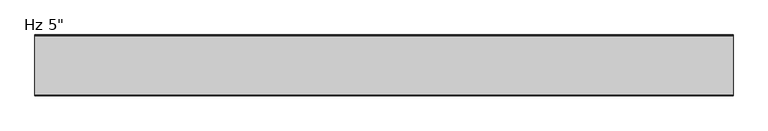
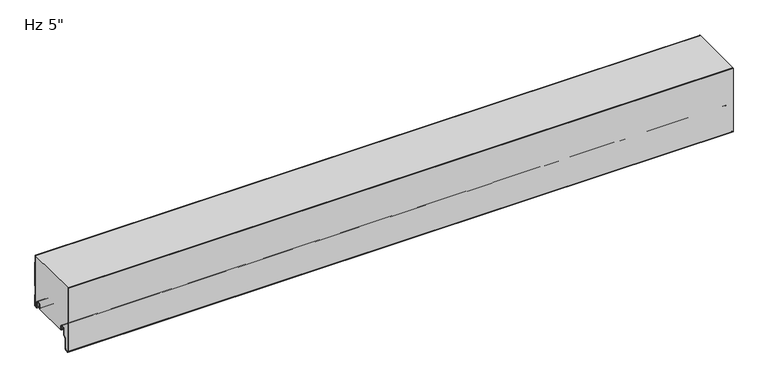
"""IFC4 building model written with IfcOpenShell, lengths in millimetres: plate geometry."""

from ifc_helpers import new_model, si_unit, point, frame, frame_2d, origin, place, context, project, spatial, polyline, circle_curve, trimmed, segment, composite_curve, outline, extrude, source, transform, mapped, element, save
from ifc_brep_helpers import plane_surface, cylinder_surface, revolved_surface, advanced_brep


def plate_448bf853(model_context):
    return source(origin(), model_context, "Body", "SolidModel", [
        advanced_brep(
        [(-730.0, -17.0015159, 2.0313088), (-730.0, -18.0015191, 1.0313116), (-730.0, -19.0015105, 2.0313088), (-730.0, -19.0015105, 6.0315125), (-730.0, -18.0015159, 6.0315125), (-730.0, -18.0015159, 8.7237223), (-730.0, -14.7015202, 12.023718), (-730.0, -10.301529, 12.023718), (-730.0, -7.0015335, 8.7237225), (-730.0, -7.0015335, -1.6962564), (-730.0, -5.2315393, -3.4662506), (-730.0, -0.9999916, -3.4662506), (-730.0, -0.9999916, 21.034026), (-730.0, -2.2002307, 22.4196686), (-730.0, -2.2002307, 41.7948349), (-730.0, -1.0, 43.1804679), (-730.0, -1.0, 97.2338833), (-730.0, -2.2002307, 98.6195162), (-730.0, -2.2002307, 114.0), (-730.0, -1.2002307, 114.0), (-730.0, -1.2002307, 98.9923967), (-730.0, -0.3417885, 98.001349), (-730.0, 0.0, 97.0847321), (-730.0, 0.0, 43.329619), (-730.0, -0.3417885, 42.4130021), (-730.0, -1.2002307, 41.4219545), (-730.0, -1.2002307, 22.7925491), (-730.0, -0.3417885, 21.8015014), (-730.0, 0.0, 20.8847931), (-730.0, 8.4e-06, -3.0662545), (-730.0, -1.3999878, -4.4662506), (-730.0, -5.2315393, -4.4662506), (-730.0, -8.0015335, -1.6962564), (-730.0, -8.0015335, 8.7237225), (-730.0, -10.301529, 11.023718), (-730.0, -14.7015202, 11.023718), (-730.0, -17.0015159, 8.7237223), (730.0, -17.0015159, 2.0313088), (730.0, -17.0015159, 8.7237223), (730.0, -14.7015202, 11.023718), (730.0, -10.301529, 11.023718), (730.0, -8.0015335, 8.7237225), (730.0, -8.0015335, -1.6962564), (730.0, -5.2315393, -4.4662506), (730.0, -1.3999878, -4.4662506), (730.0, 8.4e-06, -3.0662545), (730.0, 8.4e-06, 20.8848845), (730.0, -0.3417885, 21.8015014), (730.0, -1.2002307, 22.7925491), (730.0, -1.2002307, 41.4219545), (730.0, -0.3417885, 42.4130021), (730.0, 0.0, 43.329619), (730.0, 0.0, 97.0847321), (730.0, -0.3417885, 98.001349), (730.0, -1.2002307, 98.9923967), (730.0, -1.2002307, 114.0), (730.0, -2.2002307, 114.0), (730.0, -2.2002307, 98.6195162), (730.0, -1.0, 97.2338833), (730.0, -1.0, 43.1804679), (730.0, -2.2002307, 41.7948349), (730.0, -2.2002307, 22.4196686), (730.0, -0.9999916, 21.034026), (730.0, -0.9999916, -3.4662506), (730.0, -5.2315393, -3.4662506), (730.0, -7.0015335, -1.6962564), (730.0, -7.0015335, 8.7237225), (730.0, -10.301529, 12.023718), (730.0, -14.7015202, 12.023718), (730.0, -18.0015159, 8.7237223), (730.0, -18.0015159, 6.0315125), (730.0, -19.0015105, 6.0315125), (730.0, -19.0015105, 2.0313088), (730.0, -18.0015192, 1.0313116)],
        [
            (0, 1, circle_curve(frame((-730.0, -18.0015132, 2.0313088), z_axis=(-1.0, 0.0, 0.0), x_axis=(0.0, 0.0, 1.0)), 0.9999973)),
            (1, 2, circle_curve(frame((-730.0, -18.0015133, 2.0313088), z_axis=(-1.0, 0.0, 0.0), x_axis=(0.0, 0.0, 1.0)), 0.9999972)),
            (2, 3),
            (3, 4),
            (4, 5),
            (5, 6, circle_curve(frame((-730.0, -14.7015202, 8.7237223), z_axis=(-1.0, 0.0, 0.0), x_axis=(0.0, 0.0, 1.0)), 3.2999957)),
            (6, 7),
            (7, 8, circle_curve(frame((-730.0, -10.301529, 8.7237225), z_axis=(-1.0, 0.0, 0.0), x_axis=(0.0, 0.0, 1.0)), 3.2999955)),
            (8, 9),
            (9, 10, circle_curve(frame((-730.0, -5.2315393, -1.6962564), z_axis=(1.0, 0.0, 0.0), x_axis=(0.0, 0.0, 1.0)), 1.7699942)),
            (10, 11),
            (11, 12),
            (12, 13),
            (13, 14),
            (14, 15),
            (15, 16),
            (16, 17),
            (17, 18),
            (18, 19),
            (19, 20),
            (20, 21),
            (21, 22, circle_curve(frame((-730.0, -1.3999972, 97.0847321), z_axis=(-1.0, 0.0, 0.0), x_axis=(0.0, 0.0, 1.0)), 1.3999972)),
            (22, 23),
            (23, 24, circle_curve(frame((-730.0, -1.3999972, 43.329619), z_axis=(-1.0, 0.0, 0.0), x_axis=(0.0, 0.0, 1.0)), 1.3999972)),
            (24, 25),
            (25, 26),
            (26, 27),
            (27, 28, circle_curve(frame((-730.0, -1.3999972, 20.8848845), z_axis=(-1.0, 0.0, 0.0), x_axis=(0.0, 0.0, 1.0)), 1.3999972)),
            (28, 29),
            (29, 30, circle_curve(frame((-730.0, -1.3999878, -3.0662545), z_axis=(-1.0, 0.0, 0.0), x_axis=(0.0, 0.0, 1.0)), 1.3999962)),
            (30, 31),
            (31, 32, circle_curve(frame((-730.0, -5.2315393, -1.6962564), z_axis=(-1.0, 0.0, 0.0), x_axis=(0.0, 0.0, 1.0)), 2.7699942)),
            (32, 33),
            (33, 34, circle_curve(frame((-730.0, -10.301529, 8.7237225), z_axis=(1.0, 0.0, 0.0), x_axis=(0.0, 0.0, 1.0)), 2.2999955)),
            (34, 35),
            (35, 36, circle_curve(frame((-730.0, -14.7015202, 8.7237223), z_axis=(1.0, 0.0, 0.0), x_axis=(0.0, 0.0, 1.0)), 2.2999957)),
            (36, 0),
            (37, 38),
            (38, 39, circle_curve(frame((730.0, -14.7015202, 8.7237223), z_axis=(-1.0, 0.0, 0.0), x_axis=(0.0, 0.0, 1.0)), 2.2999957)),
            (39, 40),
            (40, 41, circle_curve(frame((730.0, -10.301529, 8.7237225), z_axis=(-1.0, 0.0, 0.0), x_axis=(0.0, 0.0, 1.0)), 2.2999955)),
            (41, 42),
            (42, 43, circle_curve(frame((730.0, -5.2315393, -1.6962564), z_axis=(1.0, 0.0, 0.0), x_axis=(0.0, 0.0, 1.0)), 2.7699942)),
            (43, 44),
            (44, 45, circle_curve(frame((730.0, -1.3999878, -3.0662545), z_axis=(1.0, 0.0, 0.0), x_axis=(0.0, 0.0, 1.0)), 1.3999962)),
            (45, 46),
            (46, 47, circle_curve(frame((730.0, -1.3999972, 20.8848845), z_axis=(1.0, 0.0, 0.0), x_axis=(0.0, 0.0, 1.0)), 1.3999972)),
            (47, 48),
            (48, 49),
            (49, 50),
            (50, 51, circle_curve(frame((730.0, -1.3999972, 43.329619), z_axis=(1.0, 0.0, 0.0), x_axis=(0.0, 0.0, 1.0)), 1.3999972)),
            (51, 52),
            (52, 53, circle_curve(frame((730.0, -1.3999972, 97.0847321), z_axis=(1.0, 0.0, 0.0), x_axis=(0.0, 0.0, 1.0)), 1.3999972)),
            (53, 54),
            (54, 55),
            (55, 56),
            (56, 57),
            (57, 58),
            (58, 59),
            (59, 60),
            (60, 61),
            (61, 62),
            (62, 63),
            (63, 64),
            (64, 65, circle_curve(frame((730.0, -5.2315393, -1.6962564), z_axis=(-1.0, 0.0, 0.0), x_axis=(0.0, 0.0, 1.0)), 1.7699942)),
            (65, 66),
            (66, 67, circle_curve(frame((730.0, -10.301529, 8.7237225), z_axis=(1.0, 0.0, 0.0), x_axis=(0.0, 0.0, 1.0)), 3.2999955)),
            (67, 68),
            (68, 69, circle_curve(frame((730.0, -14.7015202, 8.7237223), z_axis=(1.0, 0.0, 0.0), x_axis=(0.0, 0.0, 1.0)), 3.2999957)),
            (69, 70),
            (70, 71),
            (71, 72),
            (72, 73, circle_curve(frame((730.0, -18.0015133, 2.0313088), z_axis=(1.0, 0.0, 0.0), x_axis=(0.0, 0.0, 1.0)), 0.9999972)),
            (73, 37, circle_curve(frame((730.0, -18.0015132, 2.0313088), z_axis=(1.0, 0.0, 0.0), x_axis=(0.0, 0.0, 1.0)), 0.9999973)),
            (18, 56),
            (55, 19),
            (36, 38),
            (37, 0),
            (35, 39),
            (34, 40),
            (33, 41),
            (32, 42),
            (31, 43),
            (30, 44),
            (29, 45),
            (28, 46),
            (27, 47),
            (26, 48),
            (25, 49),
            (24, 50),
            (23, 51),
            (22, 52),
            (21, 53),
            (20, 54),
            (17, 57),
            (16, 58),
            (15, 59),
            (14, 60),
            (13, 61),
            (12, 62),
            (11, 63),
            (10, 64),
            (9, 65),
            (8, 66),
            (7, 67),
            (6, 68),
            (5, 69),
            (4, 70),
            (3, 71),
            (2, 72),
            (1, 73),
        ],
        [
            plane_surface(frame((-730.0, 0.0, 381.0), z_axis=(-1.0, 0.0, 0.0), x_axis=(0.0, 1.0, 0.0))),
            plane_surface(frame((730.0, 0.0, 381.0), z_axis=(1.0, 0.0, 0.0), x_axis=(0.0, 1.0, 0.0))),
            plane_surface(frame((730.0, 10.0, 114.0), z_axis=(0.0, 0.0, 1.0), x_axis=(-1.0, 0.0, 0.0))),
            plane_surface(frame((-730.0, -17.0015159, 2.0313088), z_axis=(0.0, 1.0, 0.0), x_axis=(1.0, 0.0, 0.0))),
            revolved_surface(polyline([(730.0, -14.7015202, 11.023718), (-730.0, -14.7015202, 11.023718)]), (-730.0, -14.7015202, 8.7237223), (1.0, 0.0, 0.0)),
            plane_surface(frame((-730.0, -14.7015202, 11.023718), z_axis=(0.0, 0.0, -1.0), x_axis=(1.0, 0.0, 0.0))),
            revolved_surface(polyline([(730.0, -10.301529, 11.023717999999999), (-730.0, -10.301529, 11.023717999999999)]), (-730.0, -10.301529, 8.7237225), (1.0, 0.0, 0.0)),
            plane_surface(frame((-730.0, -8.0015335, 8.7237225), z_axis=(0.0, -1.0, 0.0), x_axis=(1.0, 0.0, 0.0))),
            cylinder_surface(frame((-730.0, -5.2315393, -1.6962564), z_axis=(-1.0, 0.0, 0.0), x_axis=(0.0, 0.0, 1.0)), 2.7699942),
            plane_surface(frame((-730.0, -5.2315393, -4.4662506), z_axis=(0.0, 0.0, -1.0), x_axis=(1.0, 0.0, 0.0))),
            cylinder_surface(frame((-730.0, -1.3999878, -3.0662545), z_axis=(-1.0, 0.0, 0.0), x_axis=(0.0, 0.0, 1.0)), 1.3999962),
            plane_surface(frame((-730.0, 8.4e-06, -3.0662545), z_axis=(0.0, 1.0, 0.0), x_axis=(1.0, 0.0, 0.0))),
            cylinder_surface(frame((-730.0, -1.3999972, 20.8848845), z_axis=(-1.0, 0.0, 0.0), x_axis=(0.0, 0.0, 1.0)), 1.3999972),
            plane_surface(frame((-730.0, -0.3417885, 21.8015014), z_axis=(0.0, 0.755864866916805, 0.6547276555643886), x_axis=(1.0, 0.0, 0.0))),
            plane_surface(frame((-730.0, -1.2002307, 32.1072518), z_axis=(0.0, 1.0, 0.0), x_axis=(1.0, 0.0, 0.0))),
            plane_surface(frame((-730.0, -1.2002307, 41.4219545), z_axis=(0.0, 0.755864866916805, -0.6547276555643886), x_axis=(1.0, 0.0, 0.0))),
            cylinder_surface(frame((-730.0, -1.3999972, 43.329619), z_axis=(-1.0, 0.0, 0.0), x_axis=(0.0, 0.0, 1.0)), 1.3999972),
            plane_surface(frame((-730.0, 0.0, 43.329619), z_axis=(0.0, 1.0, 0.0), x_axis=(1.0, 0.0, 0.0))),
            cylinder_surface(frame((-730.0, -1.3999972, 97.0847321), z_axis=(-1.0, 0.0, 0.0), x_axis=(0.0, 0.0, 1.0)), 1.3999972),
            plane_surface(frame((-730.0, -0.3417885, 98.001349), z_axis=(0.0, 0.755864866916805, 0.6547276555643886), x_axis=(1.0, 0.0, 0.0))),
            plane_surface(frame((-730.0, -1.2002307, 108.3070994), z_axis=(0.0, 1.0, 0.0), x_axis=(1.0, 0.0, 0.0))),
            plane_surface(frame((-730.0, -2.2002307, 117.9946825), z_axis=(0.0, -1.0, 0.0), x_axis=(1.0, 0.0, 0.0))),
            plane_surface(frame((-730.0, -2.2002307, 98.6195162), z_axis=(0.0, -0.755864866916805, -0.6547276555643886), x_axis=(1.0, 0.0, 0.0))),
            plane_surface(frame((-730.0, -1.0, 97.2338833), z_axis=(0.0, -1.0, 0.0), x_axis=(1.0, 0.0, 0.0))),
            plane_surface(frame((-730.0, -1.0, 43.1804679), z_axis=(0.0, -0.755864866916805, 0.6547276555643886), x_axis=(1.0, 0.0, 0.0))),
            plane_surface(frame((-730.0, -2.2002307, 41.7948349), z_axis=(0.0, -1.0, 0.0), x_axis=(1.0, 0.0, 0.0))),
            plane_surface(frame((-730.0, -2.2002307, 22.4196686), z_axis=(0.0, -0.755864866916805, -0.6547276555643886), x_axis=(1.0, 0.0, 0.0))),
            plane_surface(frame((-730.0, -0.9999916, 21.034026), z_axis=(0.0, -1.0, 0.0), x_axis=(1.0, 0.0, 0.0))),
            plane_surface(frame((-730.0, -0.9999916, -3.4662506), z_axis=(0.0, 0.0, 1.0), x_axis=(1.0, 0.0, 0.0))),
            revolved_surface(polyline([(730.0, -5.2315393, 0.07373779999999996), (-730.0, -5.2315393, 0.07373779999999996)]), (-730.0, -5.2315393, -1.6962564), (1.0, 0.0, 0.0)),
            plane_surface(frame((-730.0, -7.0015335, -1.6962564), z_axis=(0.0, 1.0, 0.0), x_axis=(1.0, 0.0, 0.0))),
            cylinder_surface(frame((-730.0, -10.301529, 8.7237225), z_axis=(-1.0, 0.0, 0.0), x_axis=(0.0, 0.0, 1.0)), 3.2999955),
            plane_surface(frame((-730.0, -10.301529, 12.023718), z_axis=(0.0, 0.0, 1.0), x_axis=(1.0, 0.0, 0.0))),
            cylinder_surface(frame((-730.0, -14.7015202, 8.7237223), z_axis=(-1.0, 0.0, 0.0), x_axis=(0.0, 0.0, 1.0)), 3.2999957),
            plane_surface(frame((-730.0, -18.0015159, 8.7237223), z_axis=(0.0, -1.0, 0.0), x_axis=(1.0, 0.0, 0.0))),
            plane_surface(frame((-730.0, -18.0015159, 6.0315125), z_axis=(0.0, 0.0, 1.0), x_axis=(1.0, 0.0, 0.0))),
            plane_surface(frame((-730.0, -19.0015105, 6.0315125), z_axis=(0.0, -1.0, 0.0), x_axis=(1.0, 0.0, 0.0))),
            cylinder_surface(frame((-730.0, -18.0015133, 2.0313088), z_axis=(-1.0, 0.0, 0.0), x_axis=(0.0, 0.0, 1.0)), 0.9999972),
            cylinder_surface(frame((-730.0, -18.0015132, 2.0313088), z_axis=(-1.0, 0.0, 0.0), x_axis=(0.0, 0.0, 1.0)), 0.9999973),
        ],
        [
            (0, [[1, 2, 3, 4, 5, 6, 7, 8, 9, 10, 11, 12, 13, 14, 15, 16, 17, 18, 19, 20, 21, 22, 23, 24, 25, 26, 27, 28, 29, 30, 31, 32, 33, 34, 35, 36, 37]]),
            (1, [[38, 39, 40, 41, 42, 43, 44, 45, 46, 47, 48, 49, 50, 51, 52, 53, 54, 55, 56, 57, 58, 59, 60, 61, 62, 63, 64, 65, 66, 67, 68, 69, 70, 71, 72, 73, 74]]),
            (2, [[75, -56, 76, -19]]),
            (3, [[77, -38, 78, -37]]),
            (4, [[79, -39, -77, -36]]),
            (5, [[80, -40, -79, -35]]),
            (6, [[81, -41, -80, -34]]),
            (7, [[82, -42, -81, -33]]),
            (8, [[83, -43, -82, -32]]),
            (9, [[84, -44, -83, -31]]),
            (10, [[85, -45, -84, -30]]),
            (11, [[86, -46, -85, -29]]),
            (12, [[87, -47, -86, -28]]),
            (13, [[88, -48, -87, -27]]),
            (14, [[89, -49, -88, -26]]),
            (15, [[90, -50, -89, -25]]),
            (16, [[91, -51, -90, -24]]),
            (17, [[92, -52, -91, -23]]),
            (18, [[93, -53, -92, -22]]),
            (19, [[94, -54, -93, -21]]),
            (20, [[-20, -76, -55, -94]]),
            (21, [[-57, -75, -18, 95]]),
            (22, [[96, -58, -95, -17]]),
            (23, [[97, -59, -96, -16]]),
            (24, [[98, -60, -97, -15]]),
            (25, [[99, -61, -98, -14]]),
            (26, [[100, -62, -99, -13]]),
            (27, [[101, -63, -100, -12]]),
            (28, [[102, -64, -101, -11]]),
            (29, [[103, -65, -102, -10]]),
            (30, [[104, -66, -103, -9]]),
            (31, [[105, -67, -104, -8]]),
            (32, [[106, -68, -105, -7]]),
            (33, [[107, -69, -106, -6]]),
            (34, [[108, -70, -107, -5]]),
            (35, [[109, -71, -108, -4]]),
            (36, [[110, -72, -109, -3]]),
            (37, [[111, -73, -110, -2]]),
            (38, [[-78, -74, -111, -1]]),
        ],
    ),
        extrude(outline(composite_curve([segment(trimmed(circle_curve(frame_2d((-123.4296795, -32.4521105)), 3.5702393), [point((-123.1184091, -36.0087549))], [point((-126.9999188, -32.4521083))], False, "CARTESIAN"), True, "CONTINUOUS"), segment(polyline([(-126.9999188, -32.4521083), (-126.9998251, 114.0), (-125.9993606, 114.0), (-125.9993606, -32.509446)]), True, "CONTINUOUS"), segment(trimmed(circle_curve(frame_2d((-123.4297607, -32.4521176)), 2.5702393), [point((-125.9993606, -32.509446))], [point((-123.2056751, -35.0125699))], True, "CARTESIAN"), True, "CONTINUOUS"), segment(polyline([(-123.2056751, -35.0125699), (-118.2238542, -34.5765709)]), True, "CONTINUOUS"), segment(trimmed(circle_curve(frame_2d((-118.7052448, -31.9198392)), 2.6999926), [point((-118.2238542, -34.5765709))], [point((-116.0052522, -31.9198392))], True, "CARTESIAN"), True, "CONTINUOUS"), segment(polyline([(-116.0052522, -31.9198392), (-116.0052522, -9.8247096), (-110.5031811, -4.3226385)]), True, "CONTINUOUS"), segment(trimmed(circle_curve(frame_2d((-111.7052588, -3.1205608)), 1.6999946), [point((-110.5031811, -4.3226385))], [point((-110.0052642, -3.1205608))], True, "CARTESIAN"), True, "CONTINUOUS"), segment(polyline([(-110.0052642, -3.1205608), (-110.0052642, 8.6903283)]), True, "CONTINUOUS"), segment(trimmed(circle_curve(frame_2d((-106.6552689, 8.6903283)), 3.3499953), [point((-110.0052642, 8.6903283))], [point((-106.6552689, 12.0403236))], False, "CARTESIAN"), True, "CONTINUOUS"), segment(polyline([(-106.6552689, 12.0403236), (-102.2552777, 12.0403236)]), True, "CONTINUOUS"), segment(trimmed(circle_curve(frame_2d((-102.2552777, 8.6903283)), 3.3499953), [point((-102.2552777, 12.0403236))], [point((-98.9052824, 8.6903283))], False, "CARTESIAN"), True, "CONTINUOUS"), segment(polyline([(-98.9052824, 8.6903283), (-98.9052824, 5.9912173), (-97.5068035, 5.9912173), (-97.5068035, 2.2328239)]), True, "CONTINUOUS"), segment(trimmed(circle_curve(frame_2d((-98.7068002, 2.2313092)), 1.1999976), [point((-97.5068035, 2.2328239))], [point((-98.6762782, 1.0316999))], False, "CARTESIAN"), True, "CONTINUOUS"), segment(trimmed(circle_curve(frame_2d((-98.7068002, 2.2313092)), 1.1999976), [point((-98.6762782, 1.0316999))], [point((-99.9052824, 2.1710221))], False, "CARTESIAN"), True, "CONTINUOUS"), segment(polyline([(-99.9052824, 2.1710221), (-99.9052824, 8.6903283)]), True, "CONTINUOUS"), segment(trimmed(circle_curve(frame_2d((-102.2552777, 8.6903283)), 2.3499953), [point((-99.9052824, 8.6903283))], [point((-102.2552777, 11.0403236))], True, "CARTESIAN"), True, "CONTINUOUS"), segment(polyline([(-102.2552777, 11.0403236), (-106.6552689, 11.0403236)]), True, "CONTINUOUS"), segment(trimmed(circle_curve(frame_2d((-106.6552689, 8.6903283)), 2.3499953), [point((-106.6552689, 11.0403236))], [point((-109.0052642, 8.6903283))], True, "CARTESIAN"), True, "CONTINUOUS"), segment(polyline([(-109.0052642, 8.6903283), (-109.0052642, -3.1205608)]), True, "CONTINUOUS"), segment(trimmed(circle_curve(frame_2d((-111.7052588, -3.1205608)), 2.6999946), [point((-109.0052642, -3.1205608))], [point((-109.7960743, -5.0297453))], False, "CARTESIAN"), True, "CONTINUOUS"), segment(polyline([(-109.7960743, -5.0297453), (-114.6244918, -9.8581627)]), True, "CONTINUOUS"), segment(trimmed(circle_curve(frame_2d((-113.7052548, -10.7773997)), 1.2999974), [point((-114.6244918, -9.8581627))], [point((-115.0052522, -10.7773997))], True, "CARTESIAN"), True, "CONTINUOUS"), segment(polyline([(-115.0052522, -10.7773997), (-115.0052522, -31.9198392)]), True, "CONTINUOUS"), segment(trimmed(circle_curve(frame_2d((-118.7052448, -31.9198392)), 3.6999926), [point((-115.0052522, -31.9198392))], [point((-118.0944437, -35.5690675))], False, "CARTESIAN"), True, "CONTINUOUS"), segment(polyline([(-118.0944437, -35.5690675), (-123.1184091, -36.0087549)]), True, "CONTINUOUS")], self_intersect=False)), frame((-730.0, 0.0, 0.0), z_axis=(1.0, 0.0, 0.0), x_axis=(0.0, 1.0, 0.0)), (0.0, 0.0, 1.0), 1460.0),
        advanced_brep(
        [(-730.0, -98.670875, 1.0316999), (-730.0, -97.5014003, 2.2328239), (-730.0, -97.5014003, 5.9912173), (-730.0, -98.8998791, 5.9912173), (-730.0, -98.8998791, 8.6903283), (-730.0, -102.2498744, 12.0403236), (-730.0, -106.6498656, 12.0403236), (-730.0, -109.9998609, 8.6903283), (-730.0, -109.9998609, -3.1205608), (-730.0, -110.4977778, -4.3226385), (-730.0, -115.9998489, -9.8247096), (-730.0, -115.9998489, -31.9198392), (-730.0, -118.2184509, -34.5765709), (-730.0, -123.2002718, -35.0125699), (-730.0, -125.9945967, -32.4521176), (-730.0, -126.0, 114.0), (-730.0, -2.2002307, 114.0), (-730.0, -2.2002307, 98.6195163), (-730.0, -1.0, 97.2338833), (-730.0, -1.0, 43.1804679), (-730.0, -2.2002307, 41.794835), (-730.0, -2.2002307, 22.4196687), (-730.0, -0.9999916, 21.034026), (-730.0, -0.9999916, -3.4662506), (-730.0, -5.2315389, -3.4662506), (-730.0, -7.0015331, -1.6962564), (-730.0, -7.0015331, 8.7237222), (-730.0, -10.301529, 12.023718), (-730.0, -14.7015202, 12.023718), (-730.0, -18.0015159, 8.7237223), (-730.0, -18.0015159, 6.0315125), (-730.0, -19.0015105, 6.0315125), (-730.0, -19.0015105, 2.0313089), (-730.0, -18.0015192, 1.0313117), (-730.0, -19.0328308, 0.0), (-730.0, -97.6391751, 0.0), (730.0, -98.670875, 1.0316999), (730.0, -97.6391751, 0.0), (730.0, -19.0328308, 0.0), (730.0, -18.0015192, 1.0313117), (730.0, -19.0015105, 2.0313089), (730.0, -19.0015105, 6.0315125), (730.0, -18.0015159, 6.0315125), (730.0, -18.0015159, 8.7237223), (730.0, -14.7015202, 12.023718), (730.0, -10.301529, 12.023718), (730.0, -7.0015331, 8.7237222), (730.0, -7.0015331, -1.6962564), (730.0, -5.2315389, -3.4662506), (730.0, -0.9999916, -3.4662506), (730.0, -0.9999916, 21.034026), (730.0, -2.2002307, 22.4196687), (730.0, -2.2002307, 41.794835), (730.0, -1.0, 43.1804679), (730.0, -1.0, 97.2338833), (730.0, -2.2002307, 98.6195163), (730.0, -2.2002307, 114.0), (730.0, -126.0, 114.0), (730.0, -126.0, -32.4521176), (730.0, -123.2002718, -35.0125699), (730.0, -118.2184509, -34.5765709), (730.0, -115.9998489, -31.9198392), (730.0, -115.9998489, -9.8247096), (730.0, -110.4977778, -4.3226385), (730.0, -109.9998609, -3.1205608), (730.0, -109.9998609, 8.6903283), (730.0, -106.6498656, 12.0403236), (730.0, -102.2498744, 12.0403236), (730.0, -98.8998791, 8.6903283), (730.0, -98.8998791, 5.9912173), (730.0, -97.5014003, 5.9912173), (730.0, -97.5014003, 2.2328239)],
        [
            (0, 1, circle_curve(frame((-730.0, -98.7013969, 2.2313092), z_axis=(1.0, 0.0, 0.0), x_axis=(0.0, 0.0, -1.0)), 1.1999976)),
            (1, 2),
            (2, 3),
            (3, 4),
            (4, 5, circle_curve(frame((-730.0, -102.2498744, 8.6903283), z_axis=(1.0, 0.0, 0.0), x_axis=(0.0, 0.0, -1.0)), 3.3499953)),
            (5, 6),
            (6, 7, circle_curve(frame((-730.0, -106.6498656, 8.6903283), z_axis=(1.0, 0.0, 0.0), x_axis=(0.0, 0.0, -1.0)), 3.3499953)),
            (7, 8),
            (8, 9, circle_curve(frame((-730.0, -111.6998555, -3.1205608), z_axis=(-1.0, 0.0, 0.0), x_axis=(0.0, 0.0, -1.0)), 1.6999946)),
            (9, 10),
            (10, 11),
            (11, 12, circle_curve(frame((-730.0, -118.6998415, -31.9198392), z_axis=(-1.0, 0.0, 0.0), x_axis=(0.0, 0.0, -1.0)), 2.6999926)),
            (12, 13),
            (13, 14, circle_curve(frame((-730.0, -123.4243575, -32.4521176), z_axis=(-1.0, 0.0, 0.0), x_axis=(0.0, 0.0, -1.0)), 2.5702393)),
            (14, 15),
            (15, 16),
            (16, 17),
            (17, 18),
            (18, 19),
            (19, 20),
            (20, 21),
            (21, 22),
            (22, 23),
            (23, 24),
            (24, 25, circle_curve(frame((-730.0, -5.2315389, -1.6962564), z_axis=(-1.0, 0.0, 0.0), x_axis=(0.0, 0.0, 1.0)), 1.7699942)),
            (25, 26),
            (26, 27, circle_curve(frame((-730.0, -10.301529, 8.7237222), z_axis=(1.0, 0.0, 0.0), x_axis=(0.0, 0.0, 1.0)), 3.2999959)),
            (27, 28),
            (28, 29, circle_curve(frame((-730.0, -14.7015202, 8.7237223), z_axis=(1.0, 0.0, 0.0), x_axis=(0.0, 0.0, 1.0)), 3.2999957)),
            (29, 30),
            (30, 31),
            (31, 32),
            (32, 33, circle_curve(frame((-730.0, -18.0015133, 2.0313089), z_axis=(1.0, 0.0, 0.0), x_axis=(0.0, 0.0, 1.0)), 0.9999972)),
            (33, 34),
            (34, 35),
            (35, 0),
            (36, 37),
            (37, 38),
            (38, 39),
            (39, 40, circle_curve(frame((730.0, -18.0015133, 2.0313089), z_axis=(-1.0, 0.0, 0.0), x_axis=(0.0, 0.0, 1.0)), 0.9999972)),
            (40, 41),
            (41, 42),
            (42, 43),
            (43, 44, circle_curve(frame((730.0, -14.7015202, 8.7237223), z_axis=(-1.0, 0.0, 0.0), x_axis=(0.0, 0.0, 1.0)), 3.2999957)),
            (44, 45),
            (45, 46, circle_curve(frame((730.0, -10.301529, 8.7237222), z_axis=(-1.0, 0.0, 0.0), x_axis=(0.0, 0.0, 1.0)), 3.2999959)),
            (46, 47),
            (47, 48, circle_curve(frame((730.0, -5.2315389, -1.6962564), z_axis=(1.0, 0.0, 0.0), x_axis=(0.0, 0.0, 1.0)), 1.7699942)),
            (48, 49),
            (49, 50),
            (50, 51),
            (51, 52),
            (52, 53),
            (53, 54),
            (54, 55),
            (55, 56),
            (56, 57),
            (57, 58),
            (58, 59, circle_curve(frame((730.0, -123.4243575, -32.4521176), z_axis=(1.0, 0.0, 0.0), x_axis=(0.0, 0.0, -1.0)), 2.5702393)),
            (59, 60),
            (60, 61, circle_curve(frame((730.0, -118.6998415, -31.9198392), z_axis=(1.0, 0.0, 0.0), x_axis=(0.0, 0.0, -1.0)), 2.6999926)),
            (61, 62),
            (62, 63),
            (63, 64, circle_curve(frame((730.0, -111.6998555, -3.1205608), z_axis=(1.0, 0.0, 0.0), x_axis=(0.0, 0.0, -1.0)), 1.6999946)),
            (64, 65),
            (65, 66, circle_curve(frame((730.0, -106.6498656, 8.6903283), z_axis=(-1.0, 0.0, 0.0), x_axis=(0.0, 0.0, -1.0)), 3.3499953)),
            (66, 67),
            (67, 68, circle_curve(frame((730.0, -102.2498744, 8.6903283), z_axis=(-1.0, 0.0, 0.0), x_axis=(0.0, 0.0, -1.0)), 3.3499953)),
            (68, 69),
            (69, 70),
            (70, 71),
            (71, 36, circle_curve(frame((730.0, -98.7013969, 2.2313092), z_axis=(-1.0, 0.0, 0.0), x_axis=(0.0, 0.0, -1.0)), 1.1999976)),
            (35, 37),
            (36, 0),
            (34, 38),
            (57, 15),
            (14, 58),
            (13, 59),
            (12, 60),
            (11, 61),
            (10, 62),
            (9, 63),
            (8, 64),
            (7, 65),
            (6, 66),
            (5, 67),
            (4, 68),
            (3, 69),
            (2, 70),
            (1, 71),
            (56, 16),
            (33, 39),
            (32, 40),
            (31, 41),
            (30, 42),
            (29, 43),
            (28, 44),
            (27, 45),
            (26, 46),
            (25, 47),
            (24, 48),
            (23, 49),
            (22, 50),
            (21, 51),
            (20, 52),
            (19, 53),
            (18, 54),
            (17, 55),
        ],
        [
            plane_surface(frame((-730.0, -126.0, 381.0), z_axis=(-1.0, 0.0, 0.0), x_axis=(0.0, -1.0, 0.0))),
            plane_surface(frame((730.0, -126.0, 381.0), z_axis=(1.0, 0.0, 0.0), x_axis=(0.0, -1.0, 0.0))),
            plane_surface(frame((-730.0, -98.670875, 1.0316999), z_axis=(0.0, -0.7071067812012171, -0.707106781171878), x_axis=(1.0, 0.0, 0.0))),
            plane_surface(frame((-730.0, -97.6391751, 0.0), z_axis=(0.0, 0.0, -1.0), x_axis=(1.0, 0.0, 0.0))),
            plane_surface(frame((-730.0, -126.0, 713.515622), z_axis=(0.0, -1.0, 0.0), x_axis=(1.0, 0.0, 0.0))),
            cylinder_surface(frame((-730.0, -123.4243575, -32.4521176), z_axis=(-1.0, 0.0, 0.0), x_axis=(0.0, 0.0, -1.0)), 2.5702393),
            plane_surface(frame((-730.0, -123.2002718, -35.0125699), z_axis=(0.0, 0.08718474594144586, -0.9961921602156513), x_axis=(1.0, 0.0, 0.0))),
            cylinder_surface(frame((-730.0, -118.6998415, -31.9198392), z_axis=(-1.0, 0.0, 0.0), x_axis=(0.0, 0.0, -1.0)), 2.6999926),
            plane_surface(frame((-730.0, -115.9998489, -31.9198392), z_axis=(0.0, 1.0, 0.0), x_axis=(1.0, 0.0, 0.0))),
            plane_surface(frame((-730.0, -115.9998489, -9.8247096), z_axis=(0.0, 0.7071067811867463, -0.7071067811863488), x_axis=(1.0, 0.0, 0.0))),
            cylinder_surface(frame((-730.0, -111.6998555, -3.1205608), z_axis=(-1.0, 0.0, 0.0), x_axis=(0.0, 0.0, -1.0)), 1.6999946),
            plane_surface(frame((-730.0, -109.9998609, -3.1205608), z_axis=(0.0, 1.0, 0.0), x_axis=(1.0, 0.0, 0.0))),
            revolved_surface(polyline([(730.0, -106.6498656, 5.340332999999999), (-730.0, -106.6498656, 5.340332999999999)]), (-730.0, -106.6498656, 8.6903283), (1.0, 0.0, 0.0)),
            plane_surface(frame((-730.0, -106.6498656, 12.0403236), z_axis=(0.0, 0.0, -1.0), x_axis=(1.0, 0.0, 0.0))),
            revolved_surface(polyline([(730.0, -102.2498744, 5.340332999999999), (-730.0, -102.2498744, 5.340332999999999)]), (-730.0, -102.2498744, 8.6903283), (1.0, 0.0, 0.0)),
            plane_surface(frame((-730.0, -98.8998791, 8.6903283), z_axis=(0.0, -1.0, 0.0), x_axis=(1.0, 0.0, 0.0))),
            plane_surface(frame((-730.0, -98.8998791, 5.9912173), z_axis=(0.0, 0.0, -1.0), x_axis=(1.0, 0.0, 0.0))),
            plane_surface(frame((-730.0, -97.5014003, 5.9912173), z_axis=(0.0, -1.0, 0.0), x_axis=(1.0, 0.0, 0.0))),
            revolved_surface(polyline([(730.0, -98.7013969, 1.0313116), (-730.0, -98.7013969, 1.0313116)]), (-730.0, -98.7013969, 2.2313092), (1.0, 0.0, 0.0)),
            plane_surface(frame((730.0, 10.0, 114.0), z_axis=(0.0, 0.0, 1.0), x_axis=(-1.0, 0.0, 0.0))),
            plane_surface(frame((-730.0, -19.0328308, 0.0), z_axis=(0.0, 0.7071067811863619, -0.7071067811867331), x_axis=(1.0, 0.0, 0.0))),
            revolved_surface(polyline([(730.0, -18.0015133, 3.0313061), (-730.0, -18.0015133, 3.0313061)]), (-730.0, -18.0015133, 2.0313089), (1.0, 0.0, 0.0)),
            plane_surface(frame((-730.0, -19.0015105, 2.0313089), z_axis=(0.0, 1.0, 0.0), x_axis=(1.0, 0.0, 0.0))),
            plane_surface(frame((-730.0, -19.0015105, 6.0315125), z_axis=(0.0, 0.0, -1.0), x_axis=(1.0, 0.0, 0.0))),
            plane_surface(frame((-730.0, -18.0015159, 6.0315125), z_axis=(0.0, 1.0, 0.0), x_axis=(1.0, 0.0, 0.0))),
            revolved_surface(polyline([(730.0, -14.7015202, 12.023718), (-730.0, -14.7015202, 12.023718)]), (-730.0, -14.7015202, 8.7237223), (1.0, 0.0, 0.0)),
            plane_surface(frame((-730.0, -14.7015202, 12.023718), z_axis=(0.0, 0.0, -1.0), x_axis=(1.0, 0.0, 0.0))),
            revolved_surface(polyline([(730.0, -10.301529, 12.0237181), (-730.0, -10.301529, 12.0237181)]), (-730.0, -10.301529, 8.7237222), (1.0, 0.0, 0.0)),
            plane_surface(frame((-730.0, -7.0015331, 8.7237222), z_axis=(0.0, -1.0, 0.0), x_axis=(1.0, 0.0, 0.0))),
            cylinder_surface(frame((-730.0, -5.2315389, -1.6962564), z_axis=(-1.0, 0.0, 0.0), x_axis=(0.0, 0.0, 1.0)), 1.7699942),
            plane_surface(frame((-730.0, -5.2315389, -3.4662506), z_axis=(0.0, 0.0, -1.0), x_axis=(1.0, 0.0, 0.0))),
            plane_surface(frame((-730.0, -0.9999916, -3.4662506), z_axis=(0.0, 1.0, 0.0), x_axis=(1.0, 0.0, 0.0))),
            plane_surface(frame((-730.0, -0.9999916, 21.034026), z_axis=(0.0, 0.7558648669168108, 0.6547276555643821), x_axis=(1.0, 0.0, 0.0))),
            plane_surface(frame((-730.0, -2.2002307, 22.4196687), z_axis=(0.0, 1.0, 0.0), x_axis=(1.0, 0.0, 0.0))),
            plane_surface(frame((-730.0, -2.2002307, 41.794835), z_axis=(0.0, 0.7558648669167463, -0.6547276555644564), x_axis=(1.0, 0.0, 0.0))),
            plane_surface(frame((-730.0, -1.0, 43.1804679), z_axis=(0.0, 1.0, 0.0), x_axis=(1.0, 0.0, 0.0))),
            plane_surface(frame((-730.0, -1.0, 97.2338833), z_axis=(0.0, 0.7558648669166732, 0.6547276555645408), x_axis=(1.0, 0.0, 0.0))),
            plane_surface(frame((-730.0, -2.2002307, 98.6195163), z_axis=(0.0, 1.0, 0.0), x_axis=(1.0, 0.0, 0.0))),
        ],
        [
            (0, [[1, 2, 3, 4, 5, 6, 7, 8, 9, 10, 11, 12, 13, 14, 15, 16, 17, 18, 19, 20, 21, 22, 23, 24, 25, 26, 27, 28, 29, 30, 31, 32, 33, 34, 35, 36]]),
            (1, [[37, 38, 39, 40, 41, 42, 43, 44, 45, 46, 47, 48, 49, 50, 51, 52, 53, 54, 55, 56, 57, 58, 59, 60, 61, 62, 63, 64, 65, 66, 67, 68, 69, 70, 71, 72]]),
            (2, [[73, -37, 74, -36]]),
            (3, [[-35, 75, -38, -73]]),
            (4, [[-58, 76, -15, 77]]),
            (5, [[78, -59, -77, -14]]),
            (6, [[79, -60, -78, -13]]),
            (7, [[80, -61, -79, -12]]),
            (8, [[81, -62, -80, -11]]),
            (9, [[82, -63, -81, -10]]),
            (10, [[83, -64, -82, -9]]),
            (11, [[84, -65, -83, -8]]),
            (12, [[85, -66, -84, -7]]),
            (13, [[86, -67, -85, -6]]),
            (14, [[87, -68, -86, -5]]),
            (15, [[88, -69, -87, -4]]),
            (16, [[89, -70, -88, -3]]),
            (17, [[90, -71, -89, -2]]),
            (18, [[-74, -72, -90, -1]]),
            (19, [[-76, -57, 91, -16]]),
            (20, [[92, -39, -75, -34]]),
            (21, [[93, -40, -92, -33]]),
            (22, [[94, -41, -93, -32]]),
            (23, [[95, -42, -94, -31]]),
            (24, [[96, -43, -95, -30]]),
            (25, [[97, -44, -96, -29]]),
            (26, [[98, -45, -97, -28]]),
            (27, [[99, -46, -98, -27]]),
            (28, [[100, -47, -99, -26]]),
            (29, [[101, -48, -100, -25]]),
            (30, [[102, -49, -101, -24]]),
            (31, [[103, -50, -102, -23]]),
            (32, [[104, -51, -103, -22]]),
            (33, [[105, -52, -104, -21]]),
            (34, [[106, -53, -105, -20]]),
            (35, [[107, -54, -106, -19]]),
            (36, [[108, -55, -107, -18]]),
            (37, [[-17, -91, -56, -108]]),
        ],
    ),
    ])


if __name__ == "__main__":
    model = new_model("IFC4")
    model_context = context("Model", 3, world=origin())
    ifc_project = project(units=[si_unit("LENGTHUNIT", "METRE", prefix="MILLI")], contexts=[model_context])
    site = spatial("IfcSite", under=ifc_project)
    building = spatial("IfcBuilding", under=site)
    placement = place(None, origin())
    plate_shape = plate_448bf853(model_context)
    element("IfcPlate", 1, ObjectType="KIP-30-Karrier-KP-R19-CP-Hz-FL3-8in_SL : Hz 5\"", at=placement, inside=building, context=model_context, shape_type="MappedRepresentation", body=[
        mapped(plate_shape, transform((0.0, 0.0, 0.0), x_axis=(1.0, 0.0, 0.0), y_axis=(0.0, 1.0, 0.0), z_axis=(0.0, 0.0, 1.0))),
    ])
    save(model, "model.ifc")
